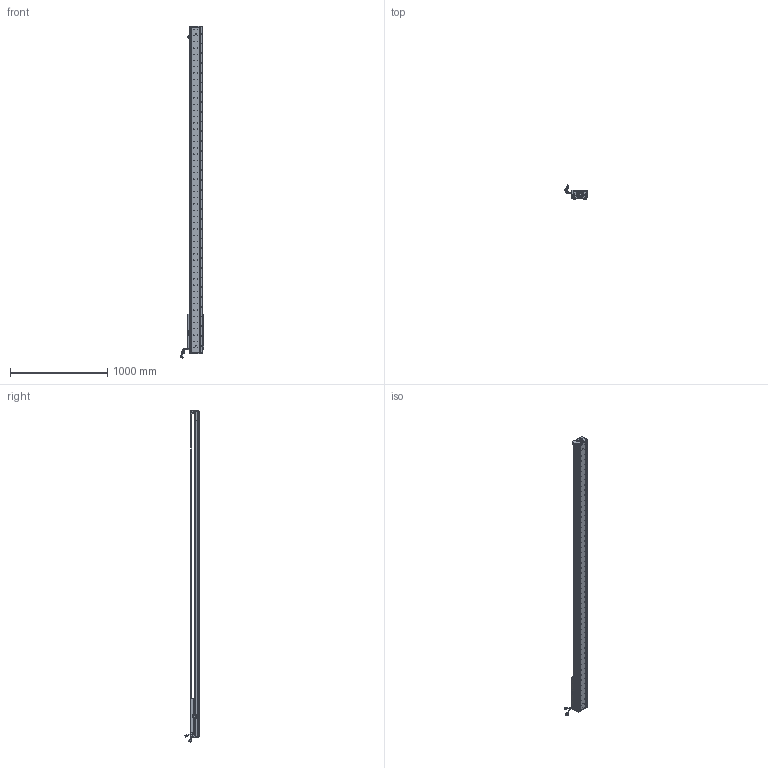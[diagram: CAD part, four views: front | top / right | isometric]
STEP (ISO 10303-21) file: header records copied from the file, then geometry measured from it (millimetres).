
FILE_DESCRIPTION (( 'STEP AP203' ), '1' );
FILE_NAME ('Z5-RY140D-1-L500-B-K.SLDASM_2900.step', '2021-05-17T08:42:19', ( '盈信电脑' ), ( '东莞市道滘镇水果街19号' ), 'SwSTEP 2.0', 'SolidWorks 2016', '' );
FILE_SCHEMA (( 'CONFIG_CONTROL_DESIGN' ));
Length unit declared in the file: millimetre
Products named in the file (36): Z-140詩湍傷裔啣; SCREW-M1.6; SEAL; Z5-RY140圉猾敕臏賑輸(21遴); SCALE-Part-2; SCREW-M1.6-2; Z5-RY140D-1-L500-B-K.SLDASM_2900; LABEL-Part-1; 140雄赽晤鎢ん堤盄; HARNESS-Part-2; SHIELDPLATE; 140蚥薯蝶輸; 080黍杅芛假蚾釱21遴; Z-RY140感应器672光电感应片; 榋妏寠巭燃_暯_M2_2; 詩湍奻揤裔; COVER; SCREW-M1.6-1; 詩湍狟揤裔; SCALE; HOLDER0; SCALE-Part-1; SCREW-M1.7-1; PBU_SHEET; Z5-RY140-L500詩湍100mm遵_2900; Z5-RY140-L500直线电机模组底座_2900; SCREW-M1.6-3; PSLH080_PSLF2; COVER-Part-1; 覜茼ん672; HARNESS; SCREW-M1.7; SEAL-Part-1; HARNESS-Part-1; 140-Z-臏賑輸盄裔(21遴); LABEL
Assembly tree (41 placements, depth 4):
  Z5-RY140D-1-L500-B-K.SLDASM_2900
    Z5-RY140-L500直线电机模组底座_2900
    Z-RY140感应器672光电感应片
    Z5-RY140圉猾敕臏賑輸(21遴)
    覜茼ん672  x3
    Z5-RY140-L500詩湍100mm遵_2900
    PSLH080_PSLF2
      SCALE
        SCALE-Part-1
        SCALE-Part-2
      HARNESS
        HARNESS-Part-1
        HARNESS-Part-2
      LABEL
        LABEL-Part-1
      COVER
        COVER-Part-1
      SEAL
        SEAL-Part-1
      榋妏寠巭燃_暯_M2_2
      SHIELDPLATE
      SCREW-M1.7
      SCREW-M1.7-1
      PBU_SHEET
      SCREW-M1.6
      SCREW-M1.6-1
      SCREW-M1.6-2
      SCREW-M1.6-3
      HOLDER0
    080黍杅芛假蚾釱21遴
    140-Z-臏賑輸盄裔(21遴)
    Z-140詩湍傷裔啣  x2
    詩湍狟揤裔  x2
    詩湍奻揤裔  x2
    140蚥薯蝶輸  x2
    140雄赽晤鎢ん堤盄
Bounding box: 239.79 x 143.88 x 3405.87 mm (x, y, z)
Volume: 11031470.5 mm3; surface area: 2839456.4 mm2
Topology: 36 solids, 36 shells, 4704 faces, 12900 edges, 8175 vertices
Faces by surface type: cylinder 2650, plane 1478, cone 454, torus 69, bspline 53
Entity records: 152444 total; most frequent: CARTESIAN_POINT 43979, ORIENTED_EDGE 22616, DIRECTION 20676, EDGE_CURVE 11308, AXIS2_PLACEMENT_3D 7736, VERTEX_POINT 7343, VECTOR 5204, LINE 5204
